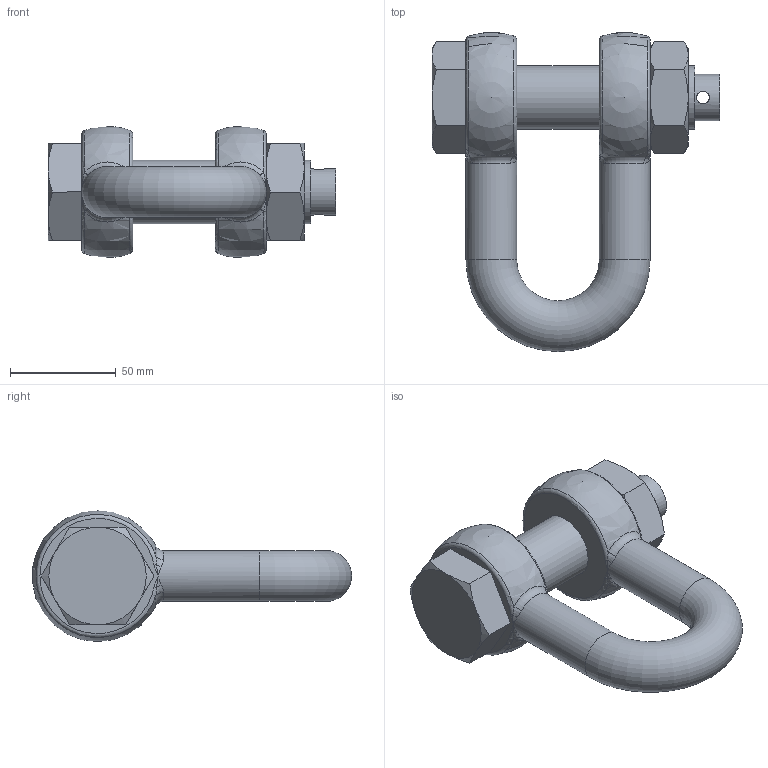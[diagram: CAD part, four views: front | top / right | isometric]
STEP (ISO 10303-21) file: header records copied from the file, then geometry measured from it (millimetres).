
FILE_DESCRIPTION(/* description */ (''),/* implementation_level */ '2;1');
FILE_NAME(/* name */ 'C:\Users\D\Documents\Inventor\HP\吊具\シャックル\SB_2\sb_24.stp',/* time_stamp */ '2024-11-14T11:44:50+09:00',/* author */ ('D'),/* organization */ (''),/* preprocessor_version */ 'ST-DEVELOPER v18',/* originating_system */ 'Autodesk Inventor 2020',/* authorisation */ '');
FILE_SCHEMA (('AUTOMOTIVE_DESIGN { 1 0 10303 214 3 1 1 }'));
Length unit declared in the file: millimetre
Products named in the file (3): sb_24; sb_6; sb_pin_10
Assembly tree (2 placements, depth 2):
  sb_24
    sb_6
    sb_pin_10
Bounding box: 136 x 150.77 x 62 mm (x, y, z)
Volume: 317904.3 mm3; surface area: 55469 mm2
Topology: 2 solids, 2 shells, 83 faces, 217 edges, 121 vertices
Faces by surface type: bspline 24, plane 22, cone 18, torus 9, cylinder 8, sphere 2
Full cylindrical faces by diameter (mm): 6 x1, 22 x1, 24 x2, 30 x2, 31 x2
Entity records: 3212 total; most frequent: CARTESIAN_POINT 1379, ORIENTED_EDGE 394, DIRECTION 333, EDGE_CURVE 197, AXIS2_PLACEMENT_3D 153, VERTEX_POINT 121, EDGE_LOOP 92, CIRCLE 89
